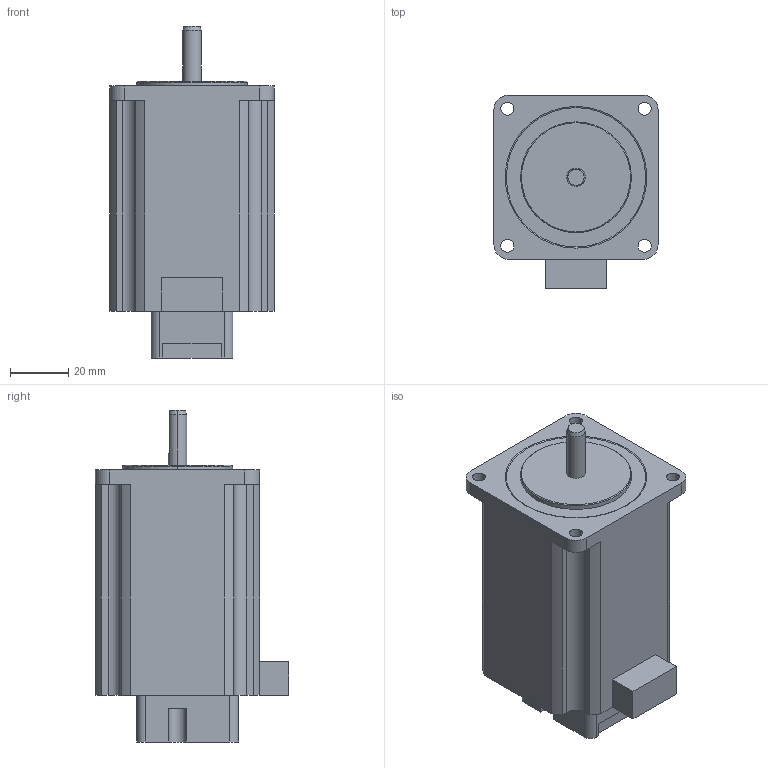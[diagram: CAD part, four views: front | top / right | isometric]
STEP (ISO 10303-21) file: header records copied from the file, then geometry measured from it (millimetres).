
FILE_DESCRIPTION (( 'STEP AP203' ), '1' );
FILE_NAME ('P-PMSA-U56D5ME-NL_3D.STEP', '2020-02-04T02:13:31', ( '' ), ( '' ), 'SwSTEP 2.0', 'SolidWorks 2018', '' );
FILE_SCHEMA (( 'CONFIG_CONTROL_DESIGN' ));
Length unit declared in the file: millimetre
Products named in the file (1): P-PMSA-U56D5ME-NL_3D
Bounding box: 56.4 x 66.4 x 114.1 mm (x, y, z)
Volume: 241943 mm3; surface area: 25964 mm2
Topology: 1 solids, 1 shells, 84 faces, 230 edges, 152 vertices
Faces by surface type: plane 42, cylinder 35, cone 7
Entity records: 2782 total; most frequent: DIRECTION 479, CARTESIAN_POINT 477, ORIENTED_EDGE 460, EDGE_CURVE 230, AXIS2_PLACEMENT_3D 166, VERTEX_POINT 152, LINE 147, VECTOR 147
